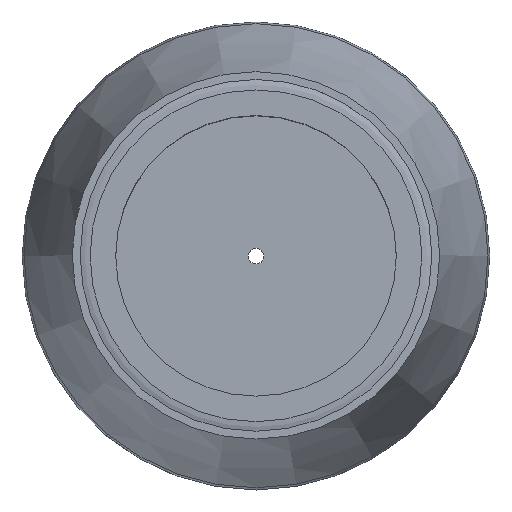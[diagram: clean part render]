
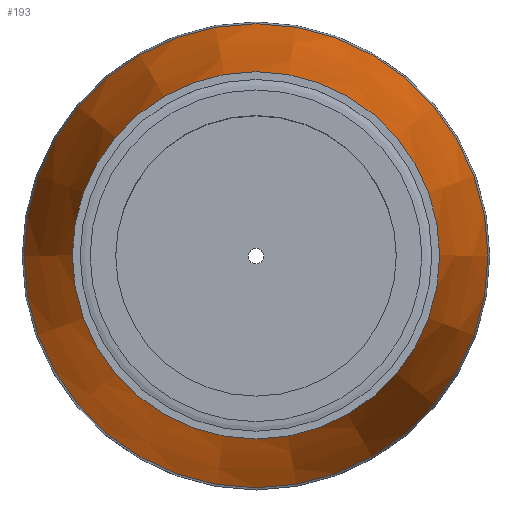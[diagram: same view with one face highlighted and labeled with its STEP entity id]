
A CAD part, top view. The second image highlights one B-rep face of the part: STEP entity #193.
In plain terms, the highlighted conical face has half-angle 12.497 degrees and reference radius 117.785 mm.
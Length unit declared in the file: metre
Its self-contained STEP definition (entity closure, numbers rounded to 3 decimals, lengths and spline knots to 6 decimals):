
#193 = ADVANCED_FACE( '', ( #263, #264 ), #265, .T. );
#263 = FACE_OUTER_BOUND( '', #343, .T. );
#264 = FACE_BOUND( '', #344, .T. );
#265 = CONICAL_SURFACE( '', #345, 0.117785, 0.218 );
#343 = EDGE_LOOP( '', ( #463 ) );
#344 = EDGE_LOOP( '', ( #464 ) );
#345 = AXIS2_PLACEMENT_3D( '', #465, #466, #467 );
#463 = ORIENTED_EDGE( '', *, *, #515, .T. );
#464 = ORIENTED_EDGE( '', *, *, #516, .F. );
#465 = CARTESIAN_POINT( '', ( 0., 0., -0.149983 ) );
#466 = DIRECTION( '', ( 0., 0., 1. ) );
#467 = DIRECTION( '', ( 1., 0., 0. ) );
#515 = EDGE_CURVE( '', #565, #565, #566, .T. );
#516 = EDGE_CURVE( '', #567, #567, #568, .T. );
#565 = VERTEX_POINT( '', #767 );
#566 = CIRCLE( '', #768, 0.148815 );
#567 = VERTEX_POINT( '', #769 );
#568 = CIRCLE( '', #770, 0.117785 );
#767 = CARTESIAN_POINT( '', ( -0.148815, 0., -0.009983 ) );
#768 = AXIS2_PLACEMENT_3D( '', #838, #839, #840 );
#769 = CARTESIAN_POINT( '', ( -0.117785, 0., -0.149983 ) );
#770 = AXIS2_PLACEMENT_3D( '', #841, #842, #843 );
#838 = CARTESIAN_POINT( '', ( 0., 0., -0.009983 ) );
#839 = DIRECTION( '', ( 0., 0., -1. ) );
#840 = DIRECTION( '', ( -1., 0., 0. ) );
#841 = CARTESIAN_POINT( '', ( 0., 0., -0.149983 ) );
#842 = DIRECTION( '', ( 0., 0., -1. ) );
#843 = DIRECTION( '', ( -1., 0., 0. ) );
